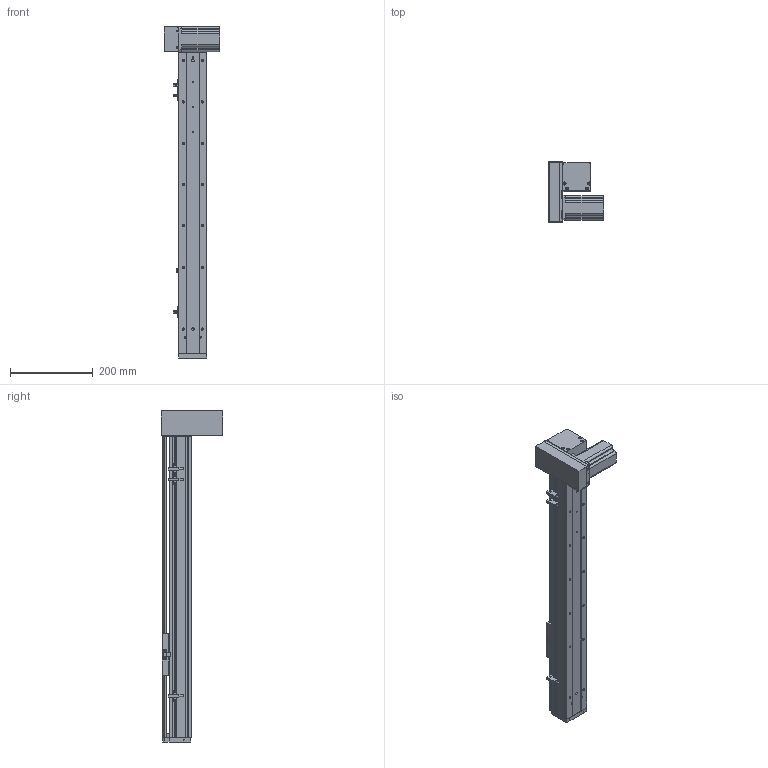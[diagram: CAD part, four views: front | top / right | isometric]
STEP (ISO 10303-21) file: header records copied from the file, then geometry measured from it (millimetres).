
FILE_DESCRIPTION (( 'STEP AP203' ), '1' );
FILE_NAME ('ML68-S550-DR.STEP', '2016-08-05T00:41:03', ( '' ), ( '' ), 'SwSTEP 2.0', 'SolidWorks 2014', '' );
FILE_SCHEMA (( 'CONFIG_CONTROL_DESIGN' ));
Length unit declared in the file: millimetre
Products named in the file (12): 換覜ん; ML68雄赽釱; ML68滅鳥啣盓傅輸; 葩璃 ML68菁釱^ML68-S550-DR; ML68傷啣; ML68奻裔^ML68-S550-DR; 三协电机MH201N2_預設; QS68酘衵殏萇儂啣; ML68-BL傷啣; QS68左右折电机板罩子; 60換覜結え; ML68-S550-DR
Assembly tree (13 placements, depth 2):
  ML68-S550-DR
    葩璃 ML68菁釱^ML68-S550-DR
    ML68奻裔^ML68-S550-DR
    ML68傷啣
    ML68-BL傷啣
    60換覜結え
    換覜ん  x3
    三协电机MH201N2_預設
    ML68雄赽釱
    QS68酘衵殏萇儂啣
    QS68左右折电机板罩子
    ML68滅鳥啣盓傅輸
Bounding box: 133.5 x 148 x 804 mm (x, y, z)
Volume: 1601313.9 mm3; surface area: 589928.1 mm2
Topology: 13 solids, 13 shells, 905 faces, 2476 edges, 1569 vertices
Faces by surface type: cylinder 412, plane 397, cone 96
Entity records: 28640 total; most frequent: CARTESIAN_POINT 5466, DIRECTION 4690, ORIENTED_EDGE 4452, EDGE_CURVE 2226, AXIS2_PLACEMENT_3D 1693, VERTEX_POINT 1457, VECTOR 1304, LINE 1304
